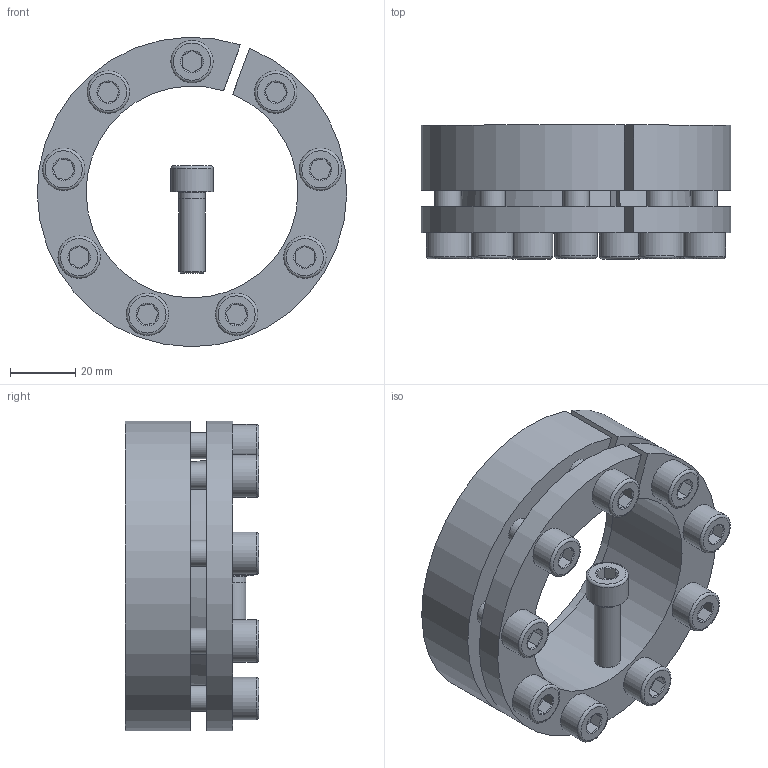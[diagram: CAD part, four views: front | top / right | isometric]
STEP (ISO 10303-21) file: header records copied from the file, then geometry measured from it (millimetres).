
FILE_DESCRIPTION( ( 'Unknown' ), '1' );
FILE_NAME( 'C:/Dokumente und Einstellungen/Sven/Desktop/homepage/cad - homepage/KBS13/KBS 13 - 65 x 95.stp', 'Unknown', ( 'Unknown' ), ( 'Unknown' ), 'XStep 1.0', 'Unknown', ' ' );
FILE_SCHEMA( ( 'automotive_design' ) );
Length unit declared in the file: millimetre
Products named in the file (3): Assem1; KBS 13 - 65 x 95; ISO EN DIN 4762 M8x25
Bounding box: 94.99 x 41 x 94.98 mm (x, y, z)
Volume: 210086.4 mm3; surface area: 83444.5 mm2
Topology: 12 solids, 12 shells, 310 faces, 634 edges, 388 vertices
Faces by surface type: plane 134, cylinder 82, cone 74, torus 20
Full cylindrical faces by diameter (mm): 7 x10, 8 x56, 13 x10
Entity records: 1848 total; most frequent: CARTESIAN_POINT 304, DIRECTION 286, ORIENTED_EDGE 202, AXIS2_PLACEMENT_3D 129, EDGE_LOOP 120, EDGE_CURVE 101, FACE_OUTER_BOUND 79, VERTEX_POINT 79
